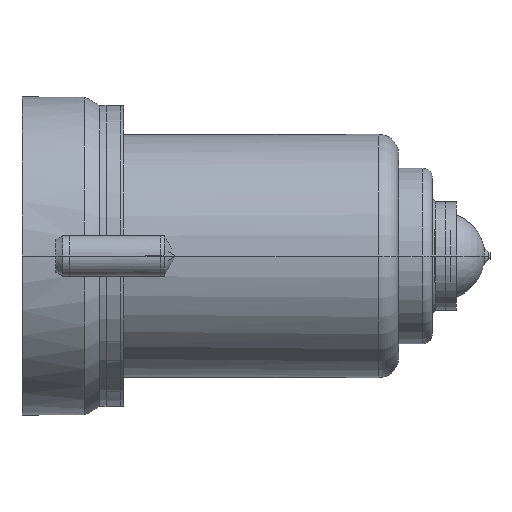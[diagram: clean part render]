
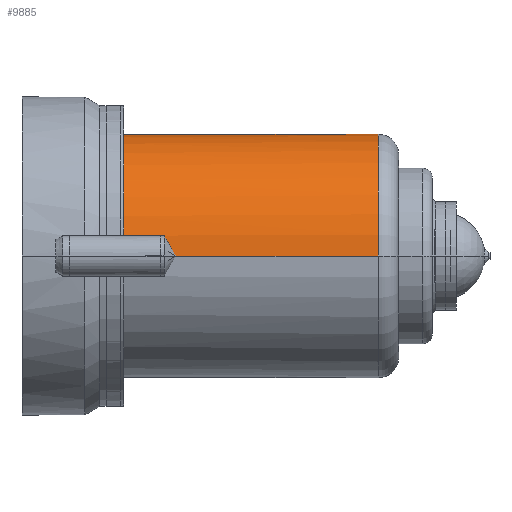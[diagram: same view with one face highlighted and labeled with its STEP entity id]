
A CAD part, left-side view. The second image highlights one B-rep face of the part: STEP entity #9885.
In plain terms, the highlighted cylindrical face has radius 18 mm (diameter 36 mm), a partial arc.
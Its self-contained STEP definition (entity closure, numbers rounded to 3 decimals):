
#9214=CARTESIAN_POINT('',(0.,-21.,0.));
#9215=DIRECTION('',(0.,-1.,0.));
#9216=DIRECTION('',(1.,0.,0.));
#9217=AXIS2_PLACEMENT_3D('',#9214,#9215,#9216);
#9219=CARTESIAN_POINT('',(0.,-52.642,0.));
#9220=DIRECTION('',(0.,-1.,0.));
#9221=DIRECTION('',(1.,0.,0.));
#9222=AXIS2_PLACEMENT_3D('',#9219,#9220,#9221);
#9224=DIRECTION('',(0.,-1.,0.));
#9225=VECTOR('',#9224,6.);
#9226=CARTESIAN_POINT('',(16.125,-15.,8.));
#9227=LINE('',#9226,#9225);
#9257=CARTESIAN_POINT('',(0.,-15.,0.));
#9258=DIRECTION('',(0.,-1.,0.));
#9259=DIRECTION('',(0.896,0.,0.444));
#9260=AXIS2_PLACEMENT_3D('',#9257,#9258,#9259);
#9415=DIRECTION('',(0.,1.,0.));
#9416=VECTOR('',#9415,37.642);
#9417=CARTESIAN_POINT('',(-18.,-52.642,0.));
#9418=LINE('',#9417,#9416);
#9424=DIRECTION('',(0.,1.,0.));
#9425=VECTOR('',#9424,31.642);
#9426=CARTESIAN_POINT('',(18.,-52.642,0.));
#9427=LINE('',#9426,#9425);
#9495=CARTESIAN_POINT('',(18.,-52.642,0.));
#9497=VERTEX_POINT('',#9495);
#9499=CARTESIAN_POINT('',(-18.,-52.642,0.));
#9501=VERTEX_POINT('',#9499);
#9502=CARTESIAN_POINT('',(-18.,-15.,0.));
#9503=VERTEX_POINT('',#9502);
#9516=CARTESIAN_POINT('',(18.,-21.,0.));
#9517=CARTESIAN_POINT('',(16.125,-21.,8.));
#9518=VERTEX_POINT('',#9516);
#9519=VERTEX_POINT('',#9517);
#9520=CARTESIAN_POINT('',(16.125,-15.,8.));
#9521=VERTEX_POINT('',#9520);
#9867=CARTESIAN_POINT('',(0.,3.42,0.));
#9868=DIRECTION('',(0.,-1.,0.));
#9869=DIRECTION('',(-1.,0.,0.));
#9870=AXIS2_PLACEMENT_3D('',#9867,#9868,#9869);
#9871=CYLINDRICAL_SURFACE('',#9870,18.);
#9873=ORIENTED_EDGE('',*,*,#9872,.F.);
#9875=ORIENTED_EDGE('',*,*,#9874,.F.);
#9876=ORIENTED_EDGE('',*,*,#9862,.T.);
#9878=ORIENTED_EDGE('',*,*,#9877,.T.);
#9880=ORIENTED_EDGE('',*,*,#9879,.F.);
#9882=ORIENTED_EDGE('',*,*,#9881,.T.);
#9883=EDGE_LOOP('',(#9873,#9875,#9876,#9878,#9880,#9882));
#9884=FACE_OUTER_BOUND('',#9883,.F.);
#9885=ADVANCED_FACE('',(#9884),#9871,.T.);
#9218=CIRCLE('',#9217,18.);
#9223=CIRCLE('',#9222,18.);
#9261=CIRCLE('',#9260,18.);
#9862=EDGE_CURVE('',#9497,#9501,#9223,.T.);
#9872=EDGE_CURVE('',#9518,#9519,#9218,.T.);
#9874=EDGE_CURVE('',#9497,#9518,#9427,.T.);
#9877=EDGE_CURVE('',#9501,#9503,#9418,.T.);
#9879=EDGE_CURVE('',#9521,#9503,#9261,.T.);
#9881=EDGE_CURVE('',#9521,#9519,#9227,.T.);
